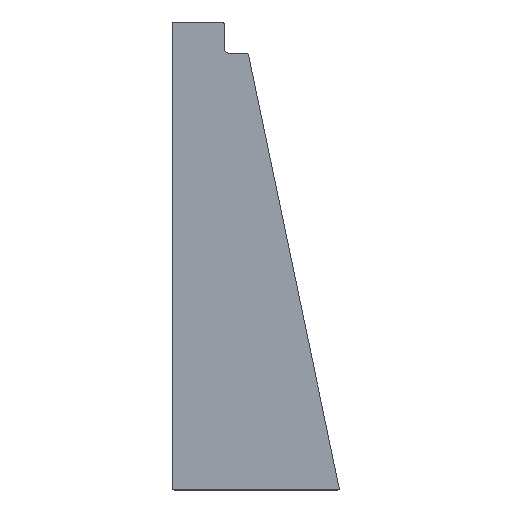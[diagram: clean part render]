
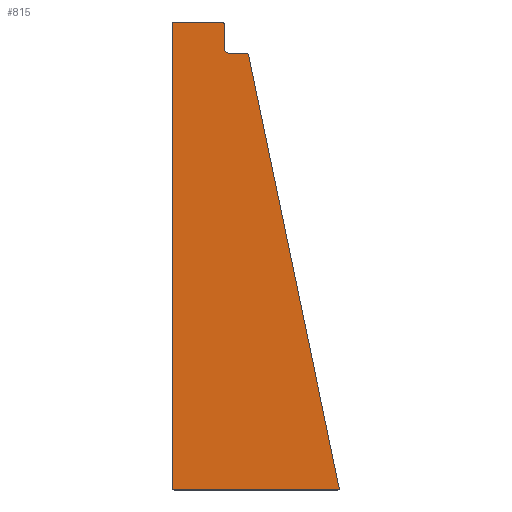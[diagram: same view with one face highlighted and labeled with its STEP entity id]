
A CAD part, top view. The second image highlights one B-rep face of the part: STEP entity #815.
In plain terms, the highlighted planar face has unit normal (0, 0, 1).
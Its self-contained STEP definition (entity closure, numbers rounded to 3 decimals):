
#395=CIRCLE('',#779,12.5);
#397=CIRCLE('',#782,3.);
#398=CIRCLE('',#783,3.);
#399=CIRCLE('',#784,3.);
#400=CIRCLE('',#785,3.);
#401=CIRCLE('',#786,3.);
#421=ORIENTED_EDGE('',*,*,#560,.F.);
#422=ORIENTED_EDGE('',*,*,#564,.F.);
#423=ORIENTED_EDGE('',*,*,#565,.T.);
#424=ORIENTED_EDGE('',*,*,#566,.F.);
#425=ORIENTED_EDGE('',*,*,#567,.F.);
#426=ORIENTED_EDGE('',*,*,#568,.F.);
#427=ORIENTED_EDGE('',*,*,#569,.T.);
#428=ORIENTED_EDGE('',*,*,#570,.F.);
#429=ORIENTED_EDGE('',*,*,#571,.F.);
#430=ORIENTED_EDGE('',*,*,#572,.F.);
#431=ORIENTED_EDGE('',*,*,#573,.F.);
#432=ORIENTED_EDGE('',*,*,#561,.F.);
#488=VECTOR('',#626,1.);
#490=VECTOR('',#638,1.);
#491=VECTOR('',#641,1.);
#492=VECTOR('',#644,1.);
#493=VECTOR('',#647,1.);
#494=VECTOR('',#650,1.);
#512=LINE('',#709,#488);
#514=LINE('',#720,#490);
#515=LINE('',#724,#491);
#516=LINE('',#728,#492);
#517=LINE('',#732,#493);
#518=LINE('',#735,#494);
#534=VERTEX_POINT('',#703);
#536=VERTEX_POINT('',#707);
#537=VERTEX_POINT('',#711);
#539=VERTEX_POINT('',#717);
#540=VERTEX_POINT('',#719);
#541=VERTEX_POINT('',#721);
#542=VERTEX_POINT('',#723);
#543=VERTEX_POINT('',#725);
#544=VERTEX_POINT('',#727);
#545=VERTEX_POINT('',#729);
#546=VERTEX_POINT('',#731);
#547=VERTEX_POINT('',#733);
#560=EDGE_CURVE('',#536,#534,#512,.T.);
#561=EDGE_CURVE('',#534,#537,#395,.T.);
#564=EDGE_CURVE('',#539,#536,#397,.T.);
#565=EDGE_CURVE('',#539,#540,#514,.T.);
#566=EDGE_CURVE('',#541,#540,#398,.T.);
#567=EDGE_CURVE('',#542,#541,#515,.T.);
#568=EDGE_CURVE('',#543,#542,#399,.T.);
#569=EDGE_CURVE('',#543,#544,#516,.T.);
#570=EDGE_CURVE('',#545,#544,#400,.T.);
#571=EDGE_CURVE('',#546,#545,#517,.T.);
#572=EDGE_CURVE('',#547,#546,#401,.T.);
#573=EDGE_CURVE('',#537,#547,#518,.T.);
#595=EDGE_LOOP('',(#421,#422,#423,#424,#425,#426,#427,#428,#429,#430,#431,
#432));
#609=FACE_BOUND('',#595,.T.);
#626=DIRECTION('',(0.,-44.5,0.));
#629=DIRECTION('',(0.,0.,1.));
#630=DIRECTION('',(0.,-12.5,0.));
#634=DIRECTION('',(0.,0.,1.));
#635=DIRECTION('',(0.,-1.,0.));
#636=DIRECTION('',(0.,0.,-1.));
#637=DIRECTION('',(0.,-3.,0.));
#638=DIRECTION('',(-91.5,0.,0.));
#639=DIRECTION('',(0.,0.,-1.));
#640=DIRECTION('',(0.,-3.,0.));
#641=DIRECTION('',(0.,884.,0.));
#642=DIRECTION('',(0.,0.,-1.));
#643=DIRECTION('',(0.,-3.,0.));
#644=DIRECTION('',(310.701,0.,0.));
#645=DIRECTION('',(0.,0.,-1.));
#646=DIRECTION('',(0.,-3.,0.));
#647=DIRECTION('',(172.768,-824.,0.));
#648=DIRECTION('',(0.,0.,-1.));
#649=DIRECTION('',(0.,-3.,0.));
#650=DIRECTION('',(30.934,0.,0.));
#703=CARTESIAN_POINT('',(6859.504,13793.86,40.));
#707=CARTESIAN_POINT('',(6859.504,13838.36,40.));
#709=CARTESIAN_POINT('',(6859.504,13838.36,40.));
#711=CARTESIAN_POINT('',(6872.004,13781.36,40.));
#712=CARTESIAN_POINT('',(6872.004,13793.86,40.));
#716=CARTESIAN_POINT('',(0.,0.,40.));
#717=CARTESIAN_POINT('',(6856.504,13841.36,40.));
#718=CARTESIAN_POINT('',(6856.504,13838.36,40.));
#719=CARTESIAN_POINT('',(6765.004,13841.36,40.));
#720=CARTESIAN_POINT('',(6856.504,13841.36,40.));
#721=CARTESIAN_POINT('',(6762.004,13838.36,40.));
#722=CARTESIAN_POINT('',(6765.004,13838.36,40.));
#723=CARTESIAN_POINT('',(6762.004,12954.36,40.));
#724=CARTESIAN_POINT('',(6762.004,12954.36,40.));
#725=CARTESIAN_POINT('',(6765.004,12951.36,40.));
#726=CARTESIAN_POINT('',(6765.004,12954.36,40.));
#727=CARTESIAN_POINT('',(7075.705,12951.36,40.));
#728=CARTESIAN_POINT('',(6765.004,12951.36,40.));
#729=CARTESIAN_POINT('',(7078.641,12954.976,40.));
#730=CARTESIAN_POINT('',(7075.705,12954.36,40.));
#731=CARTESIAN_POINT('',(6905.873,13778.975,40.));
#732=CARTESIAN_POINT('',(6905.873,13778.975,40.));
#733=CARTESIAN_POINT('',(6902.937,13781.36,40.));
#734=CARTESIAN_POINT('',(6902.937,13778.36,40.));
#735=CARTESIAN_POINT('',(6872.004,13781.36,40.));
#779=AXIS2_PLACEMENT_3D('',#712,#629,#630);
#781=AXIS2_PLACEMENT_3D('',#716,#634,#635);
#782=AXIS2_PLACEMENT_3D('',#718,#636,#637);
#783=AXIS2_PLACEMENT_3D('',#722,#639,#640);
#784=AXIS2_PLACEMENT_3D('',#726,#642,#643);
#785=AXIS2_PLACEMENT_3D('',#730,#645,#646);
#786=AXIS2_PLACEMENT_3D('',#734,#648,#649);
#806=PLANE('',#781);
#815=ADVANCED_FACE('',(#609),#806,.T.);
